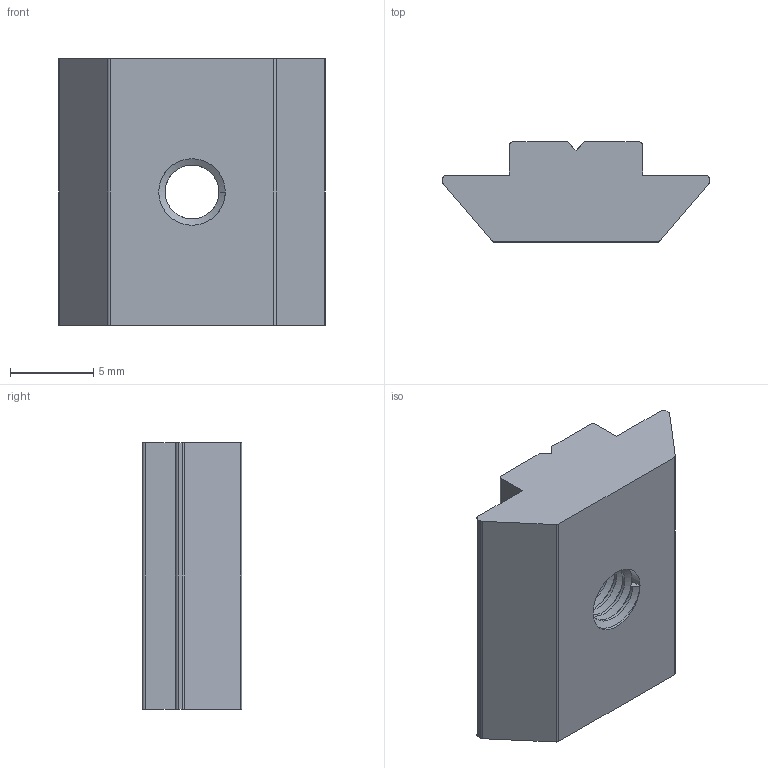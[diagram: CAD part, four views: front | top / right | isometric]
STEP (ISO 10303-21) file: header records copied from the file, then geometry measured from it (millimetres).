
FILE_DESCRIPTION (( 'STEP AP214' ), '1' );
FILE_NAME ('8-3-M4.STEP', '2018-03-06T10:09:00', ( '' ), ( '' ), 'SwSTEP 2.0', 'SolidWorks 2018', '' );
FILE_SCHEMA (( 'AUTOMOTIVE_DESIGN' ));
Length unit declared in the file: millimetre
Products named in the file (1): 8-3-M4
Bounding box: 16 x 6 x 16 mm (x, y, z)
Volume: 1047.1 mm3; surface area: 866 mm2
Topology: 1 solids, 1 shells, 51 faces, 147 edges, 97 vertices
Faces by surface type: cylinder 27, plane 18, bspline 6
Entity records: 3284 total; most frequent: CARTESIAN_POINT 2074, ORIENTED_EDGE 294, DIRECTION 197, EDGE_CURVE 147, VERTEX_POINT 97, LINE 67, VECTOR 67, AXIS2_PLACEMENT_3D 65
